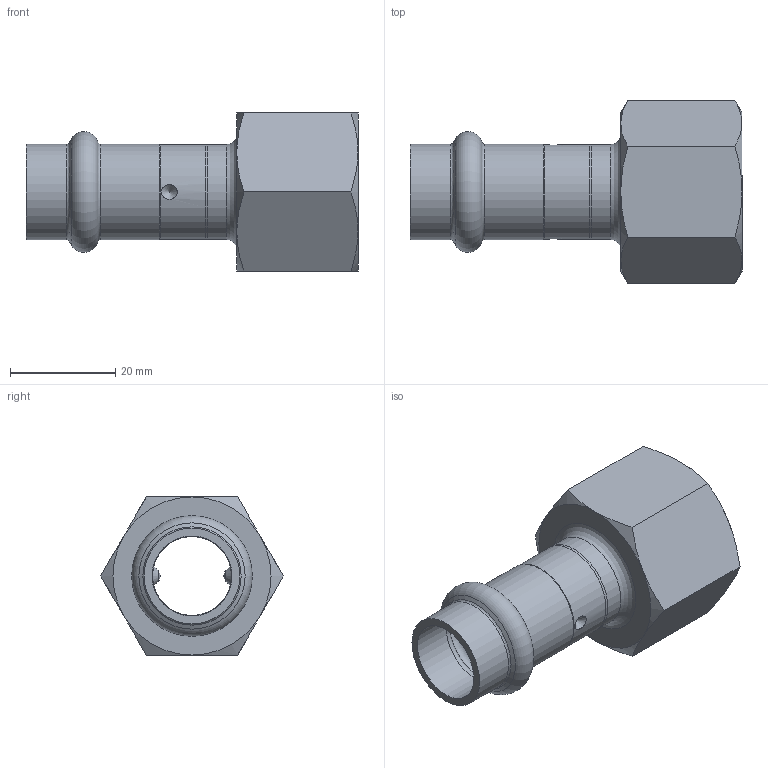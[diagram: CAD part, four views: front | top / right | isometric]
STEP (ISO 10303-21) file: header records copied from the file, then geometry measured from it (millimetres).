
FILE_DESCRIPTION((''),'2;1');
FILE_NAME('G:\Nirosan-Schmiedefeld\Technics\CAD\001 Serie 9.000\015\69270G1534H(3).stp','2018-08-28T08:27:57',('herberg'),(''),'Autodesk Inventor 2009','Autodesk Inventor 2009','');
FILE_SCHEMA(('AUTOMOTIVE_DESIGN { 1 0 10303 214 1 1 1 1 }'));
Products named in the file (3): 69270G1534H(3); 69HM1518P(0); IG1834(1)
Assembly tree (2 placements, depth 2):
  69270G1534H(3)
    69HM1518P(0)
    IG1834(1)
Bounding box: 63 x 34.64 x 30 mm (x, y, z)
Volume: 11941.1 mm3; surface area: 9810.1 mm2
Topology: 2 solids, 2 shells, 51 faces, 115 edges, 69 vertices
Faces by surface type: cone 21, plane 11, bspline 8, cylinder 7, sphere 2, torus 2
Full cylindrical faces by diameter (mm): 15 x1, 15.15 x2, 18 x2, 18.15 x2
Entity records: 1699 total; most frequent: CARTESIAN_POINT 736, DIRECTION 184, ORIENTED_EDGE 158, AXIS2_PLACEMENT_3D 89, EDGE_LOOP 82, EDGE_CURVE 79, VERTEX_POINT 59, FACE_OUTER_BOUND 51
